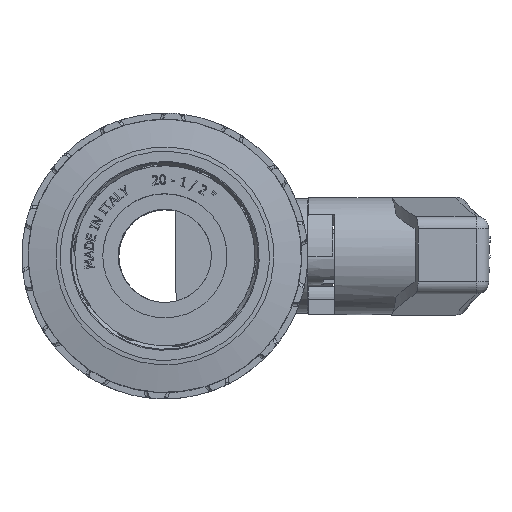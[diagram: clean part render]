
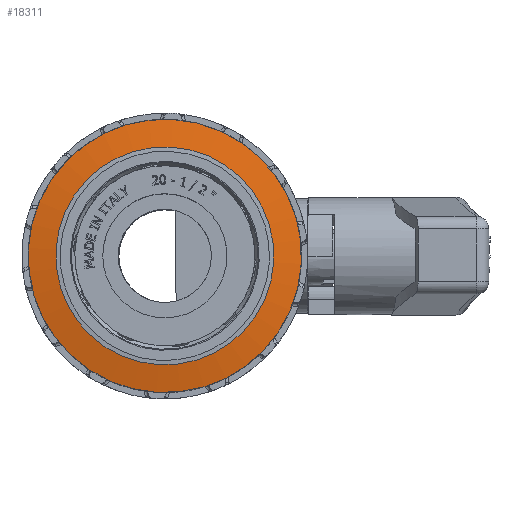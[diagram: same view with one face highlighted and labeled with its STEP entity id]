
A CAD part, top view. The second image highlights one B-rep face of the part: STEP entity #18311.
In plain terms, the highlighted conical face has half-angle 80 degrees and reference radius 19.6 mm.
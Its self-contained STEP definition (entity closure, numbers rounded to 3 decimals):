
#287=CONICAL_SURFACE('',#19758,19.6,1.396);
#1407=FACE_BOUND('',#3057,.T.);
#1892=FACE_OUTER_BOUND('',#3056,.T.);
#3056=EDGE_LOOP('',(#14079));
#3057=EDGE_LOOP('',(#14080));
#6821=CIRCLE('',#19757,17.545);
#6822=CIRCLE('',#19759,22.);
#8059=VERTEX_POINT('',#36986);
#8060=VERTEX_POINT('',#36989);
#10251=EDGE_CURVE('',#8059,#8059,#6821,.T.);
#10252=EDGE_CURVE('',#8060,#8060,#6822,.T.);
#14079=ORIENTED_EDGE('',*,*,#10252,.F.);
#14080=ORIENTED_EDGE('',*,*,#10251,.F.);
#18311=ADVANCED_FACE('',(#1892,#1407),#287,.T.);
#19757=AXIS2_PLACEMENT_3D('',#36987,#22737,#22738);
#19758=AXIS2_PLACEMENT_3D('',#36988,#22739,#22740);
#19759=AXIS2_PLACEMENT_3D('',#36990,#22741,#22742);
#22737=DIRECTION('center_axis',(-1.,0.,0.));
#22738=DIRECTION('ref_axis',(0.,-1.,0.));
#22739=DIRECTION('center_axis',(1.,0.,0.));
#22740=DIRECTION('ref_axis',(0.,1.,0.));
#22741=DIRECTION('center_axis',(1.,0.,0.));
#22742=DIRECTION('ref_axis',(0.,0.,-1.));
#36986=CARTESIAN_POINT('',(0.061,17.545,0.));
#36987=CARTESIAN_POINT('Origin',(0.061,0.,0.));
#36988=CARTESIAN_POINT('Origin',(0.423,0.,0.));
#36989=CARTESIAN_POINT('',(0.846,22.,0.));
#36990=CARTESIAN_POINT('Origin',(0.846,0.,0.));
